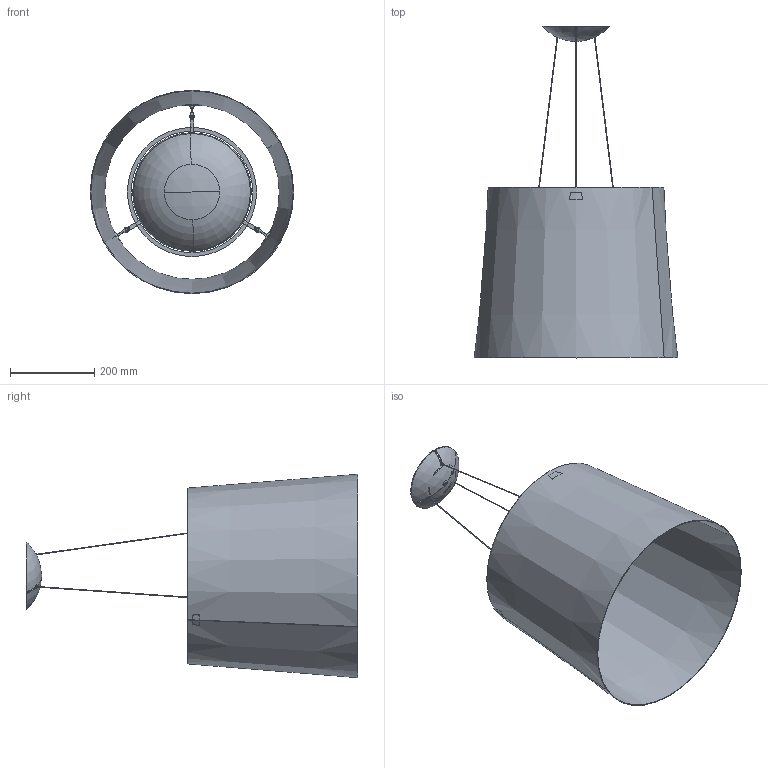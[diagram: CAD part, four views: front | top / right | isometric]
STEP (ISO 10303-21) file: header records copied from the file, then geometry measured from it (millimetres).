
FILE_DESCRIPTION (( 'STEP AP214' ), '1' );
FILE_NAME ('182_GRANDE_S_PL_3D.STEP', '2021-05-05T13:46:38', ( '' ), ( '' ), 'SwSTEP 2.0', 'SolidWorks 2021', '' );
FILE_SCHEMA (( 'AUTOMOTIVE_DESIGN' ));
Length unit declared in the file: millimetre
Products named in the file (1): 182_GRANDE_S_PL_3D
Bounding box: 483.84 x 789 x 483.84 mm (x, y, z)
Volume: 1565427.8 mm3; surface area: 1589461.5 mm2
Topology: 17 solids, 17 shells, 945 faces, 2440 edges, 1552 vertices
Faces by surface type: cylinder 311, plane 277, bspline 209, cone 63, torus 62, sphere 23
Entity records: 48552 total; most frequent: CARTESIAN_POINT 15684, ORIENTED_EDGE 4880, DIRECTION 4320, EDGE_CURVE 2440, AXIS2_PLACEMENT_3D 1690, VERTEX_POINT 1552, EDGE_LOOP 1076, UNCERTAINTY_MEASURE_WITH_UNIT 964
